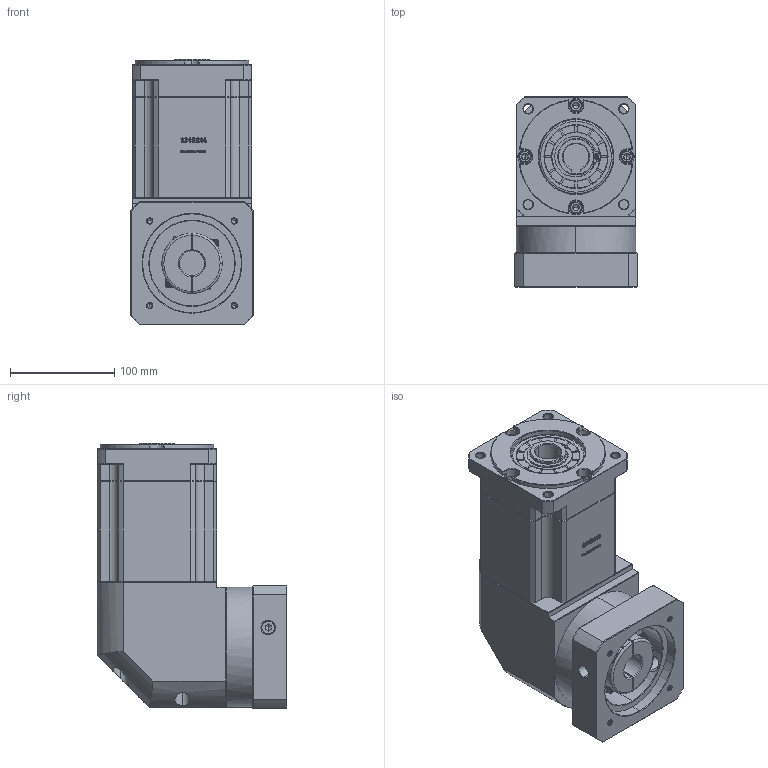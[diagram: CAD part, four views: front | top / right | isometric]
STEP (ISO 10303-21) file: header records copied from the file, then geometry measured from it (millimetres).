
FILE_DESCRIPTION (( 'STEP AP214' ), '1' );
FILE_NAME ('ZBR115A-K25-L3-24-95-115-M6.step', '2023-03-03T05:09:28', ( '' ), ( 'Microsoft' ), 'SwSTEP 2.0', 'SolidWorks 2016', '' );
FILE_SCHEMA (( 'AUTOMOTIVE_DESIGN' ));
Length unit declared in the file: millimetre
Products named in the file (1): ZBR115A-K25-L3-24-95-115-M6
Bounding box: 118 x 182.4 x 255 mm (x, y, z)
Volume: 3474018.1 mm3; surface area: 260634.6 mm2
Topology: 6 solids, 6 shells, 2913 faces, 7723 edges, 4955 vertices
Faces by surface type: plane 1551, bspline 601, cylinder 391, cone 362, torus 8
Entity records: 156608 total; most frequent: CARTESIAN_POINT 56886, ORIENTED_EDGE 15390, DIRECTION 11685, EDGE_CURVE 7695, LINE 5233, VECTOR 5233, VERTEX_POINT 4955, AXIS2_PLACEMENT_3D 3226
